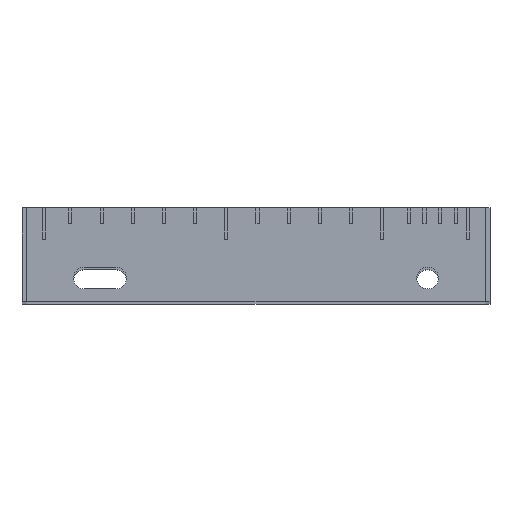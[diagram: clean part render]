
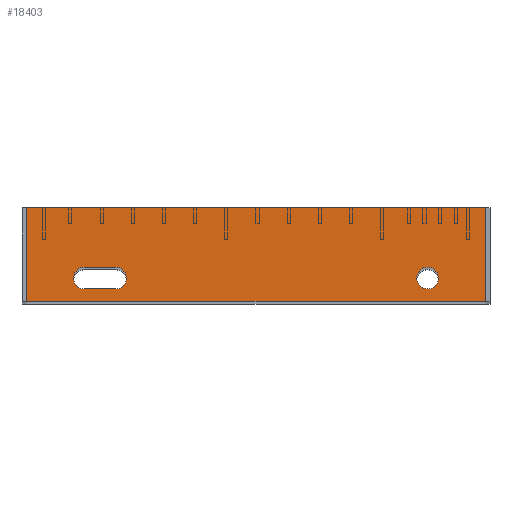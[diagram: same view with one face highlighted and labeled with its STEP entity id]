
A CAD part, top view. The second image highlights one B-rep face of the part: STEP entity #18403.
In plain terms, the highlighted planar face has unit normal (0, 0, 1).
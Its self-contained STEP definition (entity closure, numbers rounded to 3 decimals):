
#1052 = VECTOR ( 'NONE', #13879, 1000. ) ;
#1262 = CARTESIAN_POINT ( 'NONE',  ( 37., 22., 0. ) ) ;
#1777 = LINE ( 'NONE', #23295, #23709 ) ;
#2162 = DIRECTION ( 'NONE',  ( 0., 0., 1. ) ) ;
#3146 = CIRCLE ( 'NONE', #22632, 7. ) ;
#3255 = DIRECTION ( 'NONE',  ( -1., 0., 0. ) ) ;
#4160 = FACE_BOUND ( 'NONE', #14889, .T. ) ;
#5258 = ORIENTED_EDGE ( 'NONE', *, *, #21031, .T. ) ;
#5948 = CARTESIAN_POINT ( 'NONE',  ( 37., 15., 0. ) ) ;
#6133 = LINE ( 'NONE', #19335, #1052 ) ;
#6867 = VERTEX_POINT ( 'NONE', #20927 ) ;
#9546 = CARTESIAN_POINT ( 'NONE',  ( 257., 15., 0. ) ) ;
#10996 = VERTEX_POINT ( 'NONE', #59011 ) ;
#11223 = AXIS2_PLACEMENT_3D ( 'NONE', #5948, #43717, #11353 ) ;
#11353 = DIRECTION ( 'NONE',  ( 1., 0., 0. ) ) ;
#11534 = ORIENTED_EDGE ( 'NONE', *, *, #41750, .F. ) ;
#12430 = EDGE_CURVE ( 'NONE', #15056, #39672, #6133, .T. ) ;
#12753 = VERTEX_POINT ( 'NONE', #65410 ) ;
#13879 = DIRECTION ( 'NONE',  ( -1., 0., 0. ) ) ;
#13923 = VERTEX_POINT ( 'NONE', #64520 ) ;
#14889 = EDGE_LOOP ( 'NONE', ( #30801 ) ) ;
#15011 = DIRECTION ( 'NONE',  ( 1., 0., 0. ) ) ;
#15056 = VERTEX_POINT ( 'NONE', #31371 ) ;
#15087 = VECTOR ( 'NONE', #47339, 1000. ) ;
#16444 = VECTOR ( 'NONE', #52570, 1000. ) ;
#18403 = ADVANCED_FACE ( 'NONE', ( #21892, #4160, #45526 ), #35572, .F. ) ;
#19317 = VERTEX_POINT ( 'NONE', #55341 ) ;
#19335 = CARTESIAN_POINT ( 'NONE',  ( 57., 22., 0. ) ) ;
#19920 = AXIS2_PLACEMENT_3D ( 'NONE', #30166, #57119, #3255 ) ;
#20927 = CARTESIAN_POINT ( 'NONE',  ( 0., 60., 0. ) ) ;
#21031 = EDGE_CURVE ( 'NONE', #19317, #59513, #52969, .T. ) ;
#21892 = FACE_BOUND ( 'NONE', #46608, .T. ) ;
#22632 = AXIS2_PLACEMENT_3D ( 'NONE', #9546, #47316, #15011 ) ;
#23295 = CARTESIAN_POINT ( 'NONE',  ( 0., 0., 0. ) ) ;
#23341 = ORIENTED_EDGE ( 'NONE', *, *, #53018, .T. ) ;
#23442 = EDGE_LOOP ( 'NONE', ( #23341, #51365, #5258, #31162 ) ) ;
#23709 = VECTOR ( 'NONE', #66608, 1000. ) ;
#25079 = LINE ( 'NONE', #42056, #37763 ) ;
#27157 = EDGE_CURVE ( 'NONE', #12753, #15056, #56513, .T. ) ;
#27603 = CARTESIAN_POINT ( 'NONE',  ( 294., 60., 0. ) ) ;
#30166 = CARTESIAN_POINT ( 'NONE',  ( 0., 0., 0. ) ) ;
#30801 = ORIENTED_EDGE ( 'NONE', *, *, #45625, .F. ) ;
#31162 = ORIENTED_EDGE ( 'NONE', *, *, #67993, .T. ) ;
#31371 = CARTESIAN_POINT ( 'NONE',  ( 57., 22., 0. ) ) ;
#34523 = CARTESIAN_POINT ( 'NONE',  ( 57., 15., 0. ) ) ;
#35572 = PLANE ( 'NONE',  #19920 ) ;
#37763 = VECTOR ( 'NONE', #41828, 1000. ) ;
#38575 = VECTOR ( 'NONE', #62735, 1000. ) ;
#39077 = EDGE_CURVE ( 'NONE', #13923, #19317, #1777, .T. ) ;
#39672 = VERTEX_POINT ( 'NONE', #1262 ) ;
#39888 = DIRECTION ( 'NONE',  ( 1., 0., 0. ) ) ;
#41750 = EDGE_CURVE ( 'NONE', #46052, #12753, #25079, .T. ) ;
#41828 = DIRECTION ( 'NONE',  ( 1., 0., 0. ) ) ;
#41913 = CARTESIAN_POINT ( 'NONE',  ( 0., 0., 0. ) ) ;
#42056 = CARTESIAN_POINT ( 'NONE',  ( 57., 8., 0. ) ) ;
#43717 = DIRECTION ( 'NONE',  ( 0., 0., 1. ) ) ;
#43799 = LINE ( 'NONE', #41913, #15087 ) ;
#45526 = FACE_OUTER_BOUND ( 'NONE', #23442, .T. ) ;
#45625 = EDGE_CURVE ( 'NONE', #10996, #10996, #3146, .T. ) ;
#45787 = ORIENTED_EDGE ( 'NONE', *, *, #27157, .F. ) ;
#45845 = CARTESIAN_POINT ( 'NONE',  ( 37., 8., 0. ) ) ;
#46052 = VERTEX_POINT ( 'NONE', #45845 ) ;
#46608 = EDGE_LOOP ( 'NONE', ( #60996, #45787, #11534, #62253 ) ) ;
#46844 = LINE ( 'NONE', #57818, #16444 ) ;
#47049 = CIRCLE ( 'NONE', #11223, 7. ) ;
#47316 = DIRECTION ( 'NONE',  ( 0., 0., 1. ) ) ;
#47339 = DIRECTION ( 'NONE',  ( 0., -1., 0. ) ) ;
#51365 = ORIENTED_EDGE ( 'NONE', *, *, #39077, .T. ) ;
#52570 = DIRECTION ( 'NONE',  ( -1., 0., 0. ) ) ;
#52969 = LINE ( 'NONE', #57301, #38575 ) ;
#53018 = EDGE_CURVE ( 'NONE', #6867, #13923, #43799, .T. ) ;
#53845 = EDGE_CURVE ( 'NONE', #39672, #46052, #47049, .T. ) ;
#55341 = CARTESIAN_POINT ( 'NONE',  ( 294., 0., 0. ) ) ;
#56513 = CIRCLE ( 'NONE', #67891, 7. ) ;
#57119 = DIRECTION ( 'NONE',  ( 0., 0., -1. ) ) ;
#57301 = CARTESIAN_POINT ( 'NONE',  ( 294., 0., 0. ) ) ;
#57818 = CARTESIAN_POINT ( 'NONE',  ( 0., 60., 0. ) ) ;
#59011 = CARTESIAN_POINT ( 'NONE',  ( 264., 15., 0. ) ) ;
#59513 = VERTEX_POINT ( 'NONE', #27603 ) ;
#60996 = ORIENTED_EDGE ( 'NONE', *, *, #12430, .F. ) ;
#62253 = ORIENTED_EDGE ( 'NONE', *, *, #53845, .F. ) ;
#62735 = DIRECTION ( 'NONE',  ( 0., 1., 0. ) ) ;
#64520 = CARTESIAN_POINT ( 'NONE',  ( 0., 0., 0. ) ) ;
#65410 = CARTESIAN_POINT ( 'NONE',  ( 57., 8., 0. ) ) ;
#66608 = DIRECTION ( 'NONE',  ( 1., 0., 0. ) ) ;
#67891 = AXIS2_PLACEMENT_3D ( 'NONE', #34523, #2162, #39888 ) ;
#67993 = EDGE_CURVE ( 'NONE', #59513, #6867, #46844, .T. ) ;
